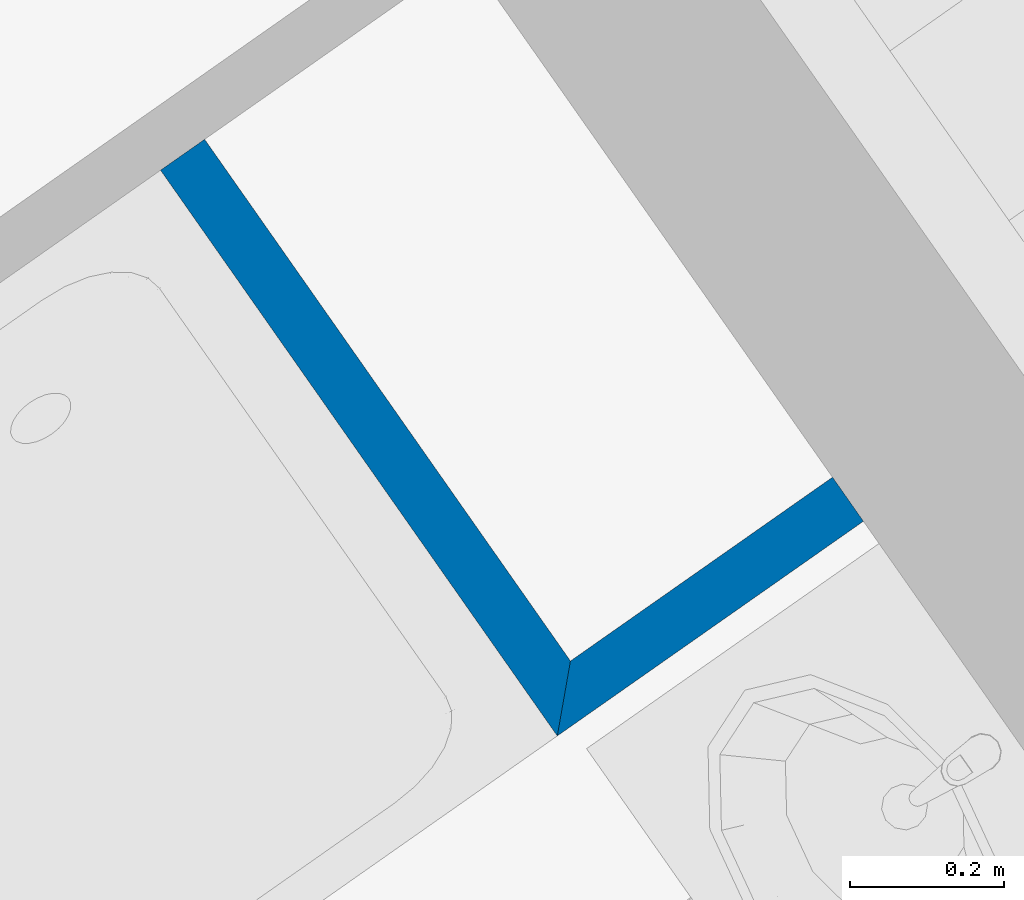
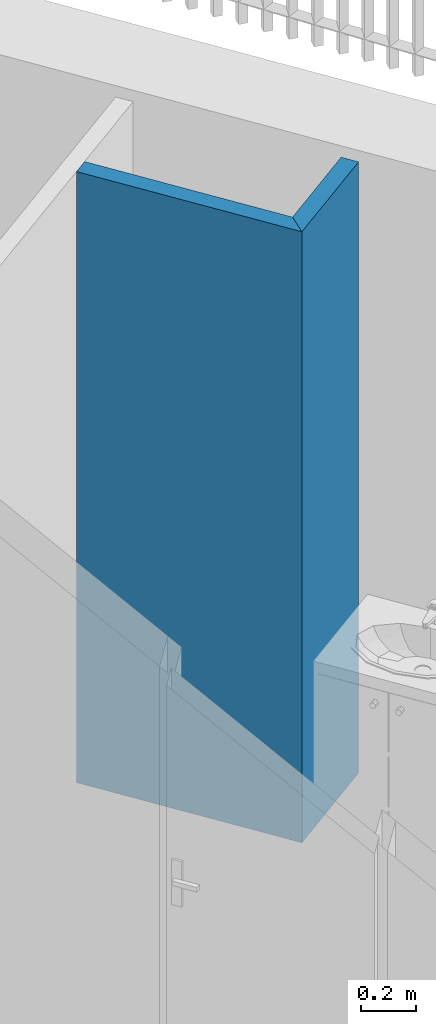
# One storey, part 31 of 195: 2 walls.
"""IFC2X3 building model written with IfcOpenShell, lengths in metres."""

from ifc_helpers import new_model, entity, si_unit, converted_unit, derived_unit, money_unit, direction, frame, origin_with_axes, place, context, subcontext, project, spatial, polyline, outline, extrude, material, layer, layer_set, layer_usage, type_object, element, save


model = new_model("IFC2X3")

# Units and contexts
model_context = context("Model", 3, precision=1e-05, world=origin_with_axes(), true_north=direction((0.0, 1.0)))
body_context = subcontext(model_context, "Body", "Model", "MODEL_VIEW")
ifc_project = project(units=[si_unit("LENGTHUNIT", "METRE"), si_unit("AREAUNIT", "SQUARE_METRE"), si_unit("VOLUMEUNIT", "CUBIC_METRE"), converted_unit("PLANEANGLEUNIT", "DEGREE", entity("IfcPlaneAngleMeasure", 0.0174532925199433), si_unit("PLANEANGLEUNIT", "RADIAN"), dimensions=[0, 0, 0, 0, 0, 0, 0]), money_unit("CHF"), converted_unit("TIMEUNIT", "Year", entity("IfcTimeMeasure", 31557600.0), si_unit("TIMEUNIT", "SECOND"), dimensions=[0, 0, 1, 0, 0, 0, 0]), si_unit("MASSUNIT", "GRAM", prefix="KILO"), si_unit("THERMODYNAMICTEMPERATUREUNIT", "DEGREE_CELSIUS"), si_unit("LUMINOUSINTENSITYUNIT", "LUMEN"), si_unit("ENERGYUNIT", "JOULE", prefix="MEGA"), derived_unit("THERMALCONDUCTANCEUNIT", [(si_unit("POWERUNIT", "WATT"), 1), (si_unit("LENGTHUNIT", "METRE"), -1), (si_unit("THERMODYNAMICTEMPERATUREUNIT", "KELVIN"), -1)]), derived_unit("SPECIFICHEATCAPACITYUNIT", [(si_unit("ENERGYUNIT", "JOULE"), 1), (si_unit("MASSUNIT", "GRAM", prefix="KILO"), -1), (si_unit("THERMODYNAMICTEMPERATUREUNIT", "KELVIN"), -1)]), derived_unit("MASSDENSITYUNIT", [(si_unit("MASSUNIT", "GRAM", prefix="KILO"), 1), (si_unit("VOLUMEUNIT", "CUBIC_METRE"), -1)])], contexts=[model_context])

# Site, building, storey
site_placement = place(None, origin_with_axes())
site = spatial("IfcSite", under=ifc_project, at=site_placement, Name="Site", CompositionType="ELEMENT")
building_placement = place(site_placement, origin_with_axes())
building = spatial("IfcBuilding", under=site, at=building_placement, Name="Bâtiment", CompositionType="ELEMENT")
storey_placement = place(building_placement, origin_with_axes())
storey = spatial("IfcBuildingStorey", under=building, at=storey_placement, Name="rdc", CompositionType="ELEMENT", Elevation=0.0)

# Walls
ifc_material = material(Name="Hachure solide 268963992")
ifc_layer = layer(ifc_material, 0.07, ventilated="UNKNOWN")
ifc_layer_set = layer_set([ifc_layer], Name="Cloison 70 0826278243")
ifc_layer_usage_1 = layer_usage(ifc_layer_set, "AXIS2", "POSITIVE", 0.0)
wall_type = type_object("IfcWallType", Name="Cloison 70 0826278243 70", PredefinedType="NOTDEFINED")
wall_1_placement = place(storey_placement, frame((9554.49711970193, -1057.94134776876, 57.7), z_axis=(0.0, 0.0, 1.0), x_axis=(-0.8187432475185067, -0.5741598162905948, 0.0)))
element("IfcWallStandardCase", 1, at=wall_1_placement, inside=storey, type_object=wall_type, material=ifc_layer_usage_1, Name="Mur-149", context=body_context, shape_type="SweptSolid", body=[
    extrude(outline(polyline([(0.3800000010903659, 0.0), (0.7970133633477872, 0.0), (0.8670133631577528, 0.06999999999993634), (0.3800000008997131, 0.06999999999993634), (0.3800000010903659, 0.0)])), origin_with_axes(), (0.0, 0.0, 1.0), 2.7),
])
ifc_layer_usage_2 = layer_usage(ifc_layer_set, "AXIS2", "POSITIVE", 0.0)
wall_2_placement = place(storey_placement, frame((9553.844570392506, -1058.398960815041, 57.7), z_axis=(0.0, 0.0, 1.0), x_axis=(-0.5741598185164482, 0.8187432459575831, 0.0)))
element("IfcWallStandardCase", 2, at=wall_2_placement, inside=storey, type_object=wall_type, material=ifc_layer_usage_2, Name="Mur-149", context=body_context, shape_type="SweptSolid", body=[
    extrude(outline(polyline([(0.0, 0.0), (0.8299999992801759, 0.0), (0.8299999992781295, 0.06999999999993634), (-0.06999999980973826, 0.06999999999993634), (0.0, 0.0)])), origin_with_axes(), (0.0, 0.0, 1.0), 2.7),
])

save(model, "model.ifc")
